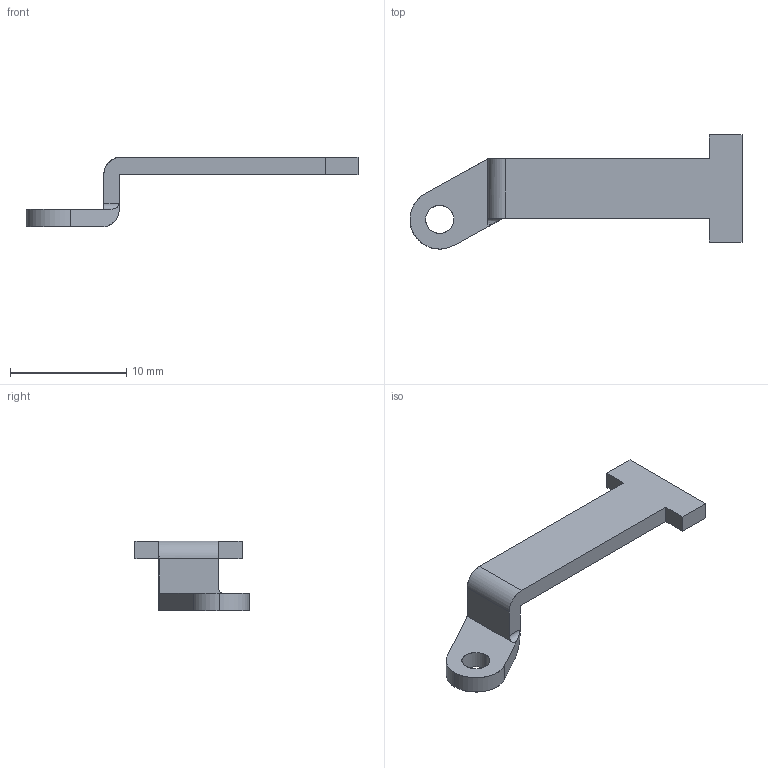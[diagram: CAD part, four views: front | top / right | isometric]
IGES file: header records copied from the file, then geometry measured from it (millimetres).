
Start section: SolidWorks IGES FILE using analytic representation for surfaces
Global section: file name: C:\Documents and Settings\lecoutey\Bureau\GP 2029\02.080.00.IGS; native system: SolidWorks 2004 by SolidWorks Corporation; preprocessor: Version 5.3; author: lecoutey; date: 050329.160734; units: millimetre
Bounding box: 28.5 x 9.79 x 6 mm (x, y, z)
Surface area: 478.2 mm2 (no closed solid volume)
Topology: 0 solids, 0 shells, 23 faces, 243 edges, 243 vertices
Faces by surface type: bspline 15, revolution 8
